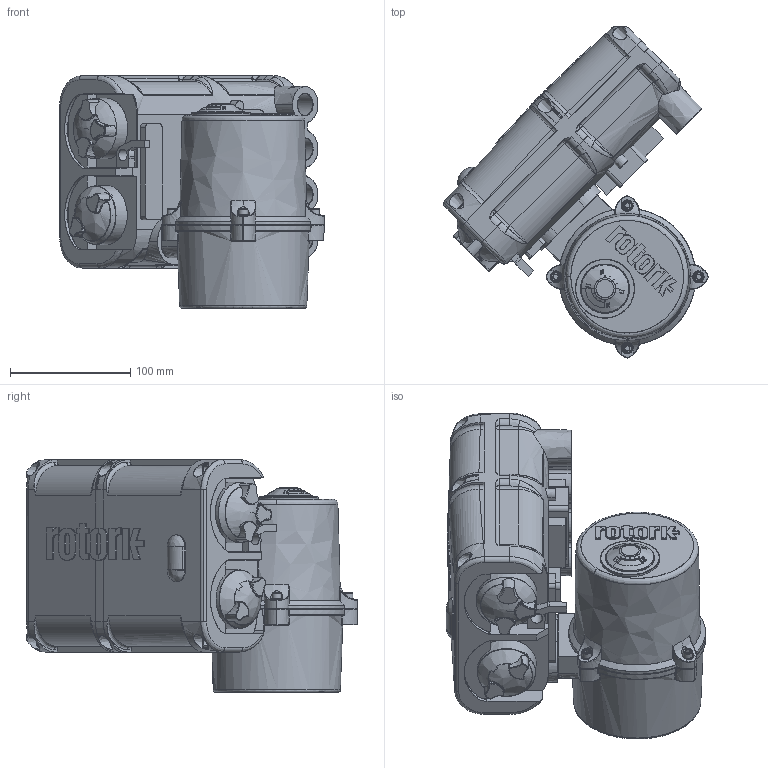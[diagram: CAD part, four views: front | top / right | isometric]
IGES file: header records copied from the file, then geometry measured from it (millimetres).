
Start section: C
Global section: file name: ROMPAKA-1.igs; native system:  By UGS Corp.; preprocessor: XPlus GENERIC/IGES 3.0; author: Author; organization: Title; date: 20130924.095555; units: millimetre
Bounding box: 220.2 x 276.07 x 193.5 mm (x, y, z)
Surface area: 249451.3 mm2 (no closed solid volume)
Topology: 0 solids, 0 shells, 1505 faces, 9375 edges, 9294 vertices
Faces by surface type: bspline 1505
